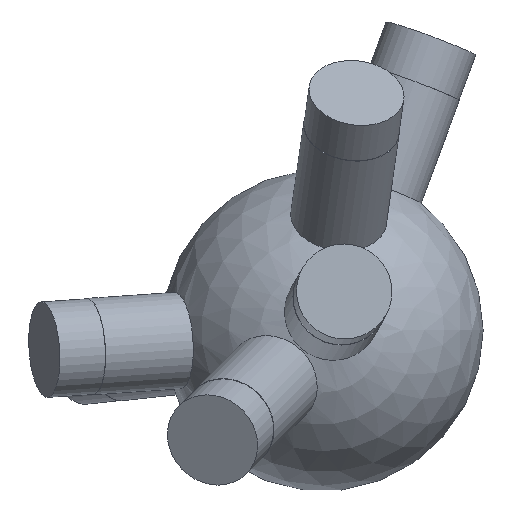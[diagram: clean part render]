
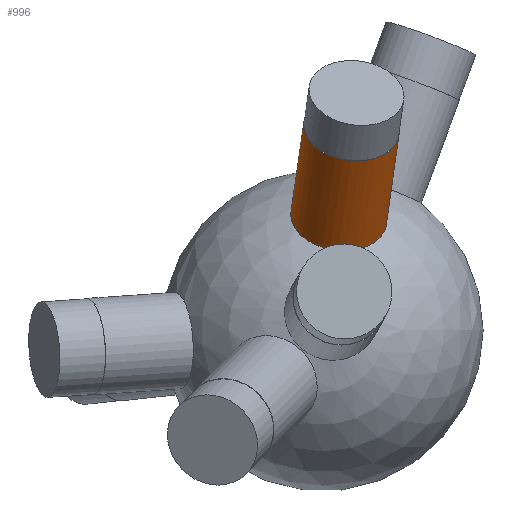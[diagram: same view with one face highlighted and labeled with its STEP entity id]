
A CAD part, top view. The second image highlights one B-rep face of the part: STEP entity #996.
In plain terms, the highlighted cylindrical face has radius 6 mm (diameter 12 mm), a full revolution.
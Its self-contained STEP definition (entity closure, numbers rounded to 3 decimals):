
#33 = SPHERICAL_SURFACE('',#34,20.);
#34 = AXIS2_PLACEMENT_3D('',#35,#36,#37);
#35 = CARTESIAN_POINT('',(0.,0.,0.));
#36 = DIRECTION('',(0.,0.,1.));
#37 = DIRECTION('',(1.,0.,-0.));
#463 = EDGE_CURVE('',#464,#464,#466,.T.);
#464 = VERTEX_POINT('',#465);
#465 = CARTESIAN_POINT('',(1.996,9.911,17.256
    ));
#466 = SURFACE_CURVE('',#467,(#472,#548),.PCURVE_S1.);
#467 = CIRCLE('',#468,6.);
#468 = AXIS2_PLACEMENT_3D('',#469,#470,#471);
#469 = CARTESIAN_POINT('',(1.996,13.971,
    12.838));
#470 = DIRECTION('',(0.105,0.732,0.673));
#471 = DIRECTION('',(0.,-0.677,0.736)
  );
#472 = PCURVE('',#33,#473);
#473 = DEFINITIONAL_REPRESENTATION('',(#474),#547);
#474 = B_SPLINE_CURVE_WITH_KNOTS('',8,(#475,#476,#477,#478,#479,#480,
    #481,#482,#483,#484,#485,#486,#487,#488,#489,#490,#491,#492,#493,
    #494,#495,#496,#497,#498,#499,#500,#501,#502,#503,#504,#505,#506,
    #507,#508,#509,#510,#511,#512,#513,#514,#515,#516,#517,#518,#519,
    #520,#521,#522,#523,#524,#525,#526,#527,#528,#529,#530,#531,#532,
    #533,#534,#535,#536,#537,#538,#539,#540,#541,#542,#543,#544,#545,
    #546),.UNSPECIFIED.,.F.,.F.,(9,7,7,7,7,7,7,7,7,7,9),(0.,
    0.393,0.761,1.451,2.659,
    3.565,4.245,4.754,5.519,
    5.901,6.283),.UNSPECIFIED.);
#475 = CARTESIAN_POINT('',(1.372,1.041));
#476 = CARTESIAN_POINT('',(1.343,1.039));
#477 = CARTESIAN_POINT('',(1.315,1.036));
#478 = CARTESIAN_POINT('',(1.287,1.031));
#479 = CARTESIAN_POINT('',(1.261,1.026));
#480 = CARTESIAN_POINT('',(1.235,1.019));
#481 = CARTESIAN_POINT('',(1.211,1.011));
#482 = CARTESIAN_POINT('',(1.189,1.003));
#483 = CARTESIAN_POINT('',(1.148,0.985));
#484 = CARTESIAN_POINT('',(1.13,0.975));
#485 = CARTESIAN_POINT('',(1.114,0.965));
#486 = CARTESIAN_POINT('',(1.099,0.954));
#487 = CARTESIAN_POINT('',(1.085,0.943));
#488 = CARTESIAN_POINT('',(1.073,0.931));
#489 = CARTESIAN_POINT('',(1.062,0.919));
#490 = CARTESIAN_POINT('',(1.035,0.883));
#491 = CARTESIAN_POINT('',(1.022,0.858));
#492 = CARTESIAN_POINT('',(1.013,0.833));
#493 = CARTESIAN_POINT('',(1.009,0.807));
#494 = CARTESIAN_POINT('',(1.008,0.781));
#495 = CARTESIAN_POINT('',(1.011,0.755));
#496 = CARTESIAN_POINT('',(1.016,0.729));
#497 = CARTESIAN_POINT('',(1.039,0.66));
#498 = CARTESIAN_POINT('',(1.062,0.618));
#499 = CARTESIAN_POINT('',(1.091,0.578));
#500 = CARTESIAN_POINT('',(1.126,0.543));
#501 = CARTESIAN_POINT('',(1.166,0.512));
#502 = CARTESIAN_POINT('',(1.209,0.486));
#503 = CARTESIAN_POINT('',(1.255,0.466));
#504 = CARTESIAN_POINT('',(1.339,0.441));
#505 = CARTESIAN_POINT('',(1.376,0.434));
#506 = CARTESIAN_POINT('',(1.413,0.43));
#507 = CARTESIAN_POINT('',(1.451,0.43));
#508 = CARTESIAN_POINT('',(1.489,0.434));
#509 = CARTESIAN_POINT('',(1.526,0.441));
#510 = CARTESIAN_POINT('',(1.562,0.452));
#511 = CARTESIAN_POINT('',(1.622,0.476));
#512 = CARTESIAN_POINT('',(1.648,0.489));
#513 = CARTESIAN_POINT('',(1.672,0.503));
#514 = CARTESIAN_POINT('',(1.695,0.519));
#515 = CARTESIAN_POINT('',(1.717,0.536));
#516 = CARTESIAN_POINT('',(1.737,0.555));
#517 = CARTESIAN_POINT('',(1.756,0.575));
#518 = CARTESIAN_POINT('',(1.786,0.612));
#519 = CARTESIAN_POINT('',(1.798,0.628));
#520 = CARTESIAN_POINT('',(1.809,0.646));
#521 = CARTESIAN_POINT('',(1.818,0.663));
#522 = CARTESIAN_POINT('',(1.826,0.681));
#523 = CARTESIAN_POINT('',(1.833,0.7));
#524 = CARTESIAN_POINT('',(1.838,0.719));
#525 = CARTESIAN_POINT('',(1.847,0.766));
#526 = CARTESIAN_POINT('',(1.849,0.795));
#527 = CARTESIAN_POINT('',(1.847,0.823));
#528 = CARTESIAN_POINT('',(1.84,0.852));
#529 = CARTESIAN_POINT('',(1.828,0.88));
#530 = CARTESIAN_POINT('',(1.811,0.907));
#531 = CARTESIAN_POINT('',(1.787,0.932));
#532 = CARTESIAN_POINT('',(1.741,0.966));
#533 = CARTESIAN_POINT('',(1.725,0.977));
#534 = CARTESIAN_POINT('',(1.706,0.987));
#535 = CARTESIAN_POINT('',(1.687,0.996));
#536 = CARTESIAN_POINT('',(1.665,1.005));
#537 = CARTESIAN_POINT('',(1.642,1.013));
#538 = CARTESIAN_POINT('',(1.618,1.019));
#539 = CARTESIAN_POINT('',(1.568,1.031));
#540 = CARTESIAN_POINT('',(1.541,1.036));
#541 = CARTESIAN_POINT('',(1.514,1.039));
#542 = CARTESIAN_POINT('',(1.486,1.042));
#543 = CARTESIAN_POINT('',(1.457,1.043));
#544 = CARTESIAN_POINT('',(1.429,1.044));
#545 = CARTESIAN_POINT('',(1.4,1.043));
#546 = CARTESIAN_POINT('',(1.372,1.041));
#547 = ( GEOMETRIC_REPRESENTATION_CONTEXT(2) 
PARAMETRIC_REPRESENTATION_CONTEXT() REPRESENTATION_CONTEXT('2D SPACE',''
  ) );
#548 = PCURVE('',#549,#554);
#549 = CYLINDRICAL_SURFACE('',#550,6.);
#550 = AXIS2_PLACEMENT_3D('',#551,#552,#553);
#551 = CARTESIAN_POINT('',(0.,0.,0.));
#552 = DIRECTION('',(0.105,0.732,0.673));
#553 = DIRECTION('',(0.,-0.677,0.736)
  );
#554 = DEFINITIONAL_REPRESENTATION('',(#555),#559);
#555 = LINE('',#556,#557);
#556 = CARTESIAN_POINT('',(0.,19.079));
#557 = VECTOR('',#558,1.);
#558 = DIRECTION('',(1.,0.));
#559 = ( GEOMETRIC_REPRESENTATION_CONTEXT(2) 
PARAMETRIC_REPRESENTATION_CONTEXT() REPRESENTATION_CONTEXT('2D SPACE',''
  ) );
#996 = ADVANCED_FACE('',(#997),#549,.T.);
#997 = FACE_BOUND('',#998,.T.);
#998 = EDGE_LOOP('',(#999,#1022,#1049,#1050));
#999 = ORIENTED_EDGE('',*,*,#1000,.T.);
#1000 = EDGE_CURVE('',#464,#1001,#1003,.T.);
#1001 = VERTEX_POINT('',#1002);
#1002 = CARTESIAN_POINT('',(3.587,21.048,
    27.491));
#1003 = SEAM_CURVE('',#1004,(#1008,#1015),.PCURVE_S1.);
#1004 = LINE('',#1005,#1006);
#1005 = CARTESIAN_POINT('',(0.,-4.06,
    4.418));
#1006 = VECTOR('',#1007,1.);
#1007 = DIRECTION('',(0.105,0.732,0.673));
#1008 = PCURVE('',#549,#1009);
#1009 = DEFINITIONAL_REPRESENTATION('',(#1010),#1014);
#1010 = LINE('',#1011,#1012);
#1011 = CARTESIAN_POINT('',(6.283,-0.));
#1012 = VECTOR('',#1013,1.);
#1013 = DIRECTION('',(0.,1.));
#1014 = ( GEOMETRIC_REPRESENTATION_CONTEXT(2) 
PARAMETRIC_REPRESENTATION_CONTEXT() REPRESENTATION_CONTEXT('2D SPACE',''
  ) );
#1015 = PCURVE('',#549,#1016);
#1016 = DEFINITIONAL_REPRESENTATION('',(#1017),#1021);
#1017 = LINE('',#1018,#1019);
#1018 = CARTESIAN_POINT('',(0.,-0.));
#1019 = VECTOR('',#1020,1.);
#1020 = DIRECTION('',(0.,1.));
#1021 = ( GEOMETRIC_REPRESENTATION_CONTEXT(2) 
PARAMETRIC_REPRESENTATION_CONTEXT() REPRESENTATION_CONTEXT('2D SPACE',''
  ) );
#1022 = ORIENTED_EDGE('',*,*,#1023,.F.);
#1023 = EDGE_CURVE('',#1001,#1001,#1024,.T.);
#1024 = SURFACE_CURVE('',#1025,(#1030,#1037),.PCURVE_S1.);
#1025 = CIRCLE('',#1026,6.);
#1026 = AXIS2_PLACEMENT_3D('',#1027,#1028,#1029);
#1027 = CARTESIAN_POINT('',(3.587,25.108,
    23.073));
#1028 = DIRECTION('',(0.105,0.732,0.673));
#1029 = DIRECTION('',(0.,-0.677,0.736
    ));
#1030 = PCURVE('',#549,#1031);
#1031 = DEFINITIONAL_REPRESENTATION('',(#1032),#1036);
#1032 = LINE('',#1033,#1034);
#1033 = CARTESIAN_POINT('',(0.,34.288));
#1034 = VECTOR('',#1035,1.);
#1035 = DIRECTION('',(1.,0.));
#1036 = ( GEOMETRIC_REPRESENTATION_CONTEXT(2) 
PARAMETRIC_REPRESENTATION_CONTEXT() REPRESENTATION_CONTEXT('2D SPACE',''
  ) );
#1037 = PCURVE('',#1038,#1043);
#1038 = PLANE('',#1039);
#1039 = AXIS2_PLACEMENT_3D('',#1040,#1041,#1042);
#1040 = CARTESIAN_POINT('',(3.587,25.108,
    23.073));
#1041 = DIRECTION('',(0.105,0.732,0.673));
#1042 = DIRECTION('',(0.,-0.677,0.736
    ));
#1043 = DEFINITIONAL_REPRESENTATION('',(#1044),#1048);
#1044 = CIRCLE('',#1045,6.);
#1045 = AXIS2_PLACEMENT_2D('',#1046,#1047);
#1046 = CARTESIAN_POINT('',(0.,0.));
#1047 = DIRECTION('',(1.,0.));
#1048 = ( GEOMETRIC_REPRESENTATION_CONTEXT(2) 
PARAMETRIC_REPRESENTATION_CONTEXT() REPRESENTATION_CONTEXT('2D SPACE',''
  ) );
#1049 = ORIENTED_EDGE('',*,*,#1000,.F.);
#1050 = ORIENTED_EDGE('',*,*,#463,.T.);
